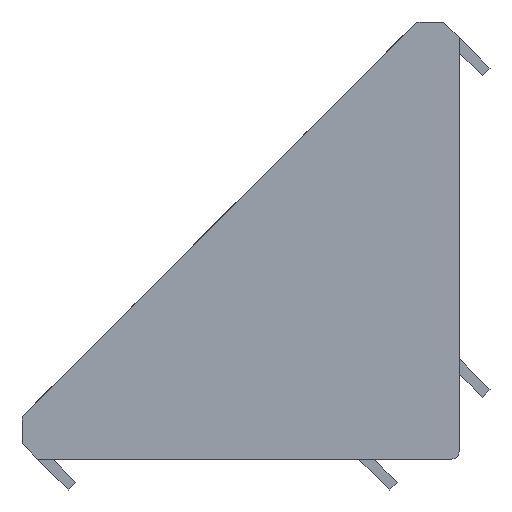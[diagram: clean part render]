
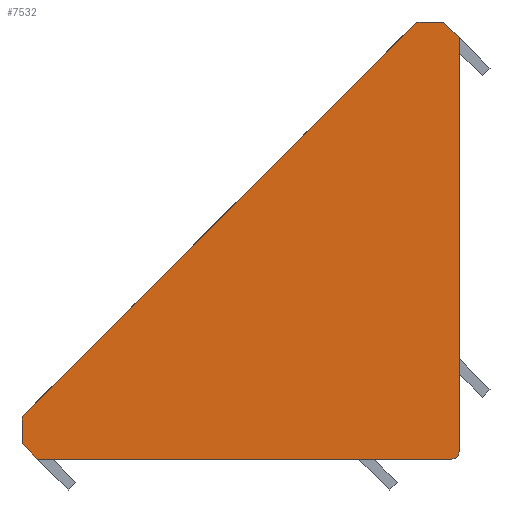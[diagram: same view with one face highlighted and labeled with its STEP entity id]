
A CAD part, left-side view. The second image highlights one B-rep face of the part: STEP entity #7532.
In plain terms, the highlighted planar face has unit normal (-1, 0, 0).
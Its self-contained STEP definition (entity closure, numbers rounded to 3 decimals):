
#175 = DIRECTION ( 'NONE',  ( 0., 0., -1. ) ) ;
#422 = EDGE_CURVE ( 'NONE', #4737, #887, #1022, .T. ) ;
#506 = ORIENTED_EDGE ( 'NONE', *, *, #7188, .F. ) ;
#735 = DIRECTION ( 'NONE',  ( 0., 1., 0. ) ) ;
#769 = CARTESIAN_POINT ( 'NONE',  ( -29., 1., 0. ) ) ;
#887 = VERTEX_POINT ( 'NONE', #9687 ) ;
#932 = EDGE_CURVE ( 'NONE', #8247, #6501, #7778, .T. ) ;
#1022 = LINE ( 'NONE', #5789, #9273 ) ;
#1082 = VECTOR ( 'NONE', #9567, 1000. ) ;
#1309 = VECTOR ( 'NONE', #5297, 1000. ) ;
#1406 = PLANE ( 'NONE',  #6656 ) ;
#1450 = CARTESIAN_POINT ( 'NONE',  ( -29., 0., 55.013 ) ) ;
#1535 = EDGE_CURVE ( 'NONE', #2505, #8673, #7835, .T. ) ;
#1711 = DIRECTION ( 'NONE',  ( 1., 0., 0. ) ) ;
#1969 = VECTOR ( 'NONE', #7081, 1000. ) ;
#2256 = CARTESIAN_POINT ( 'NONE',  ( -29., 0., 1. ) ) ;
#2283 = EDGE_CURVE ( 'NONE', #8651, #8247, #9683, .T. ) ;
#2344 = VECTOR ( 'NONE', #6453, 1000. ) ;
#2439 = ORIENTED_EDGE ( 'NONE', *, *, #6041, .F. ) ;
#2464 = FACE_OUTER_BOUND ( 'NONE', #5356, .T. ) ;
#2504 = CARTESIAN_POINT ( 'NONE',  ( -29., 55.013, 0. ) ) ;
#2505 = VERTEX_POINT ( 'NONE', #2256 ) ;
#2880 = AXIS2_PLACEMENT_3D ( 'NONE', #8983, #1711, #7330 ) ;
#2963 = CIRCLE ( 'NONE', #2880, 1. ) ;
#3008 = CARTESIAN_POINT ( 'NONE',  ( -29., 0., 0. ) ) ;
#3117 = CARTESIAN_POINT ( 'NONE',  ( -29., 56.707, 5.801 ) ) ;
#3331 = LINE ( 'NONE', #8712, #1082 ) ;
#3332 = CARTESIAN_POINT ( 'NONE',  ( -29., 0., 55.013 ) ) ;
#3367 = VERTEX_POINT ( 'NONE', #5463 ) ;
#3478 = ORIENTED_EDGE ( 'NONE', *, *, #422, .F. ) ;
#3722 = CARTESIAN_POINT ( 'NONE',  ( -29., 5.094, 57. ) ) ;
#3776 = ORIENTED_EDGE ( 'NONE', *, *, #9307, .F. ) ;
#3827 = CARTESIAN_POINT ( 'NONE',  ( -29., 5.094, 57. ) ) ;
#3853 = ORIENTED_EDGE ( 'NONE', *, *, #7116, .F. ) ;
#4017 = CARTESIAN_POINT ( 'NONE',  ( -29., 56.707, 5.801 ) ) ;
#4057 = CARTESIAN_POINT ( 'NONE',  ( -29., 5.801, 56.707 ) ) ;
#4350 = VECTOR ( 'NONE', #735, 1000. ) ;
#4737 = VERTEX_POINT ( 'NONE', #9959 ) ;
#4809 = CARTESIAN_POINT ( 'NONE',  ( -29., 1., 0. ) ) ;
#5159 = ORIENTED_EDGE ( 'NONE', *, *, #5563, .F. ) ;
#5217 = LINE ( 'NONE', #2504, #2344 ) ;
#5297 = DIRECTION ( 'NONE',  ( 0., -0.707, 0.707 ) ) ;
#5356 = EDGE_LOOP ( 'NONE', ( #3853, #3776, #7129, #5519, #506, #3478, #6009, #5159, #7882, #2439 ) ) ;
#5463 = CARTESIAN_POINT ( 'NONE',  ( -29., 1.987, 57. ) ) ;
#5519 = ORIENTED_EDGE ( 'NONE', *, *, #2283, .F. ) ;
#5563 = EDGE_CURVE ( 'NONE', #8673, #6765, #6137, .T. ) ;
#5708 = VECTOR ( 'NONE', #9326, 1000. ) ;
#5789 = CARTESIAN_POINT ( 'NONE',  ( -29., 57., 1.987 ) ) ;
#5829 = LINE ( 'NONE', #3722, #5708 ) ;
#6009 = ORIENTED_EDGE ( 'NONE', *, *, #8278, .F. ) ;
#6041 = EDGE_CURVE ( 'NONE', #8248, #2505, #7138, .T. ) ;
#6137 = LINE ( 'NONE', #769, #4350 ) ;
#6289 = DIRECTION ( 'NONE',  ( 1., 0., 0. ) ) ;
#6453 = DIRECTION ( 'NONE',  ( 0., 0.707, 0.707 ) ) ;
#6501 = VERTEX_POINT ( 'NONE', #3827 ) ;
#6525 = CARTESIAN_POINT ( 'NONE',  ( -29., 5.094, 56. ) ) ;
#6656 = AXIS2_PLACEMENT_3D ( 'NONE', #3008, #6289, #10327 ) ;
#6678 = DIRECTION ( 'NONE',  ( 0., 0., 1. ) ) ;
#6751 = CARTESIAN_POINT ( 'NONE',  ( -29., 55.013, 0. ) ) ;
#6765 = VERTEX_POINT ( 'NONE', #6751 ) ;
#6824 = AXIS2_PLACEMENT_3D ( 'NONE', #6525, #7255, #175 ) ;
#7081 = DIRECTION ( 'NONE',  ( 0., 0., -1. ) ) ;
#7116 = EDGE_CURVE ( 'NONE', #3367, #8248, #3331, .T. ) ;
#7129 = ORIENTED_EDGE ( 'NONE', *, *, #932, .F. ) ;
#7138 = LINE ( 'NONE', #1450, #1969 ) ;
#7188 = EDGE_CURVE ( 'NONE', #887, #8651, #2963, .T. ) ;
#7255 = DIRECTION ( 'NONE',  ( 1., 0., 0. ) ) ;
#7330 = DIRECTION ( 'NONE',  ( 0., 0., -1. ) ) ;
#7532 = ADVANCED_FACE ( 'NONE', ( #2464 ), #1406, .F. ) ;
#7778 = CIRCLE ( 'NONE', #6824, 1. ) ;
#7835 = CIRCLE ( 'NONE', #8939, 1. ) ;
#7882 = ORIENTED_EDGE ( 'NONE', *, *, #1535, .F. ) ;
#7999 = DIRECTION ( 'NONE',  ( 0., 0., -1. ) ) ;
#8247 = VERTEX_POINT ( 'NONE', #4057 ) ;
#8248 = VERTEX_POINT ( 'NONE', #3332 ) ;
#8278 = EDGE_CURVE ( 'NONE', #6765, #4737, #5217, .T. ) ;
#8651 = VERTEX_POINT ( 'NONE', #4017 ) ;
#8673 = VERTEX_POINT ( 'NONE', #4809 ) ;
#8712 = CARTESIAN_POINT ( 'NONE',  ( -29., 1.987, 57. ) ) ;
#8939 = AXIS2_PLACEMENT_3D ( 'NONE', #9514, #10325, #7999 ) ;
#8983 = CARTESIAN_POINT ( 'NONE',  ( -29., 56., 5.094 ) ) ;
#9273 = VECTOR ( 'NONE', #6678, 1000. ) ;
#9307 = EDGE_CURVE ( 'NONE', #6501, #3367, #5829, .T. ) ;
#9326 = DIRECTION ( 'NONE',  ( 0., -1., 0. ) ) ;
#9514 = CARTESIAN_POINT ( 'NONE',  ( -29., 1., 1. ) ) ;
#9567 = DIRECTION ( 'NONE',  ( 0., -0.707, -0.707 ) ) ;
#9683 = LINE ( 'NONE', #3117, #1309 ) ;
#9687 = CARTESIAN_POINT ( 'NONE',  ( -29., 57., 5.094 ) ) ;
#9959 = CARTESIAN_POINT ( 'NONE',  ( -29., 57., 1.987 ) ) ;
#10325 = DIRECTION ( 'NONE',  ( 1., 0., 0. ) ) ;
#10327 = DIRECTION ( 'NONE',  ( 0., 0., -1. ) ) ;
